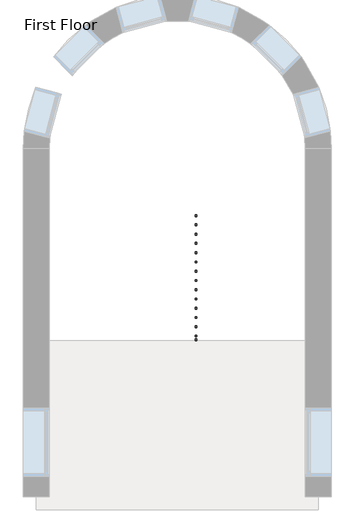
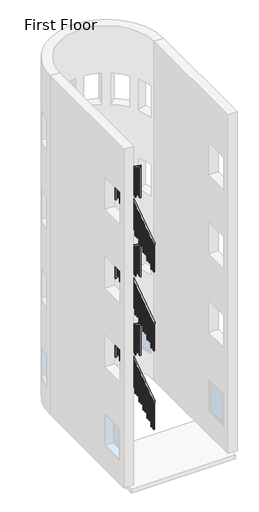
# One storey, part 3 of 4: 1 railing.
"""IFC4 building model written with IfcOpenShell, lengths in millimetres."""

from ifc_helpers import new_model, si_unit, frame, origin, place, context, project, spatial, polyline, outline, extrude, faceted_brep, element, save

model = new_model("IFC4")

# Units and contexts
model_context = context("Model", 3, world=origin())
ifc_project = project(units=[si_unit("LENGTHUNIT", "METRE", prefix="MILLI")], contexts=[model_context])

# Site, building, storey
site = spatial("IfcSite", under=ifc_project)
building = spatial("IfcBuilding", under=site)
storey = spatial("IfcBuildingStorey", under=building, Name="First Floor", Elevation=0.0)

# Railing
placement = place(None, origin())
element("IfcRailing", 1, ObjectType="1100mm", at=placement, inside=storey, context=model_context, shape_type="SolidModel", body=[
    faceted_brep([(2717.4924567, 1521.2556601, 7364.0537364), (2717.4924567, 1521.2556601, 7303.5198543), (2767.4924567, 1521.2556601, 7303.5198543), (2767.4924567, 1521.2556601, 7364.0537364), (2717.4924567, 3681.6556601, 8838.4224349), (2717.4924567, 3731.6556601, 8812.0111389), (2767.4924567, 3731.6556601, 8812.0111389), (2767.4924567, 3681.6556601, 8838.4224349), (2717.4924567, 3681.6556601, 8889.3333333), (2717.4924567, 3731.6556601, 8839.3333333), (2767.4924567, 3731.6556601, 8839.3333333), (2767.4924567, 3681.6556601, 8889.3333333), (2717.4924567, 3756.6556601, 8889.3333333), (2717.4924567, 3756.6556601, 8839.3333333), (2767.4924567, 3806.6556601, 8839.3333333), (2767.4924567, 3806.6556601, 8889.3333333), (2642.4924567, 3756.6556601, 8889.3333333), (2642.4924567, 3756.6556601, 8839.3333333), (2642.4924567, 3806.6556601, 8839.3333333), (2642.4924567, 3806.6556601, 8889.3333333), (2335.6924567, 3756.6556601, 8889.3333333), (2285.6924567, 3756.6556601, 8839.3333333), (2285.6924567, 3806.6556601, 8839.3333333), (2335.6924567, 3806.6556601, 8889.3333333), (2335.6924567, 3756.6556601, 9109.1957333), (2285.6924567, 3756.6556601, 9059.1957333), (2285.6924567, 3806.6556601, 9059.1957333), (2335.6924567, 3806.6556601, 9109.1957333), (2260.6924567, 3756.6556601, 9109.1957333), (2260.6924567, 3756.6556601, 9059.1957333), (2210.6924567, 3806.6556601, 9059.1957333), (2210.6924567, 3806.6556601, 9109.1957333), (2260.6924567, 3681.6556601, 9109.1957333), (2260.6924567, 3666.3161053, 9059.1957333), (2210.6924567, 3666.3161053, 9059.1957333), (2210.6924567, 3681.6556601, 9109.1957333), (2260.6924567, 1521.2556601, 10572.5066667), (2210.6924567, 1521.2556601, 10572.5066667), (2210.6924567, 1521.2556601, 10512.1166749), (2260.6924567, 1521.2556601, 10512.1166749)], [[[0, 1, 2, 3]], [[1, 0, 4, 5]], [[2, 1, 5, 6]], [[3, 2, 6, 7]], [[0, 3, 7, 4]], [[5, 4, 8, 9]], [[6, 5, 9, 10]], [[7, 6, 10, 11]], [[4, 7, 11, 8]], [[9, 8, 12, 13]], [[10, 9, 13, 14]], [[11, 10, 14, 15]], [[8, 11, 15, 12]], [[13, 12, 16, 17]], [[14, 13, 17, 18]], [[15, 14, 18, 19]], [[12, 15, 19, 16]], [[17, 16, 20, 21]], [[18, 17, 21, 22]], [[19, 18, 22, 23]], [[16, 19, 23, 20]], [[21, 20, 24, 25]], [[22, 21, 25, 26]], [[23, 22, 26, 27]], [[20, 23, 27, 24]], [[25, 24, 28, 29]], [[26, 25, 29, 30]], [[27, 26, 30, 31]], [[24, 27, 31, 28]], [[29, 28, 32, 33]], [[30, 29, 33, 34]], [[31, 30, 34, 35]], [[28, 31, 35, 32]], [[36, 37, 38, 39]], [[33, 32, 36, 39]], [[34, 33, 39, 38]], [[35, 34, 38, 37]], [[32, 35, 37, 36]]]),
    faceted_brep([(2717.4924567, 1521.2556601, 4316.0537364), (2717.4924567, 1521.2556601, 4255.5198543), (2767.4924567, 1521.2556601, 4255.5198543), (2767.4924567, 1521.2556601, 4316.0537364), (2717.4924567, 3681.6556601, 5790.4224349), (2717.4924567, 3731.6556601, 5764.0111389), (2767.4924567, 3731.6556601, 5764.0111389), (2767.4924567, 3681.6556601, 5790.4224349), (2717.4924567, 3681.6556601, 5841.3333333), (2717.4924567, 3731.6556601, 5791.3333333), (2767.4924567, 3731.6556601, 5791.3333333), (2767.4924567, 3681.6556601, 5841.3333333), (2717.4924567, 3756.6556601, 5841.3333333), (2717.4924567, 3756.6556601, 5791.3333333), (2767.4924567, 3806.6556601, 5791.3333333), (2767.4924567, 3806.6556601, 5841.3333333), (2642.4924567, 3756.6556601, 5841.3333333), (2642.4924567, 3756.6556601, 5791.3333333), (2642.4924567, 3806.6556601, 5791.3333333), (2642.4924567, 3806.6556601, 5841.3333333), (2335.6924567, 3756.6556601, 5841.3333333), (2285.6924567, 3756.6556601, 5791.3333333), (2285.6924567, 3806.6556601, 5791.3333333), (2335.6924567, 3806.6556601, 5841.3333333), (2335.6924567, 3756.6556601, 6061.1957333), (2285.6924567, 3756.6556601, 6011.1957333), (2285.6924567, 3806.6556601, 6011.1957333), (2335.6924567, 3806.6556601, 6061.1957333), (2260.6924567, 3756.6556601, 6061.1957333), (2260.6924567, 3756.6556601, 6011.1957333), (2210.6924567, 3806.6556601, 6011.1957333), (2210.6924567, 3806.6556601, 6061.1957333), (2260.6924567, 3681.6556601, 6061.1957333), (2260.6924567, 3666.3161053, 6011.1957333), (2210.6924567, 3666.3161053, 6011.1957333), (2210.6924567, 3681.6556601, 6061.1957333), (2260.6924567, 1521.2556601, 7524.5066667), (2210.6924567, 1521.2556601, 7524.5066667), (2210.6924567, 1521.2556601, 7464.1166749), (2260.6924567, 1521.2556601, 7464.1166749)], [[[0, 1, 2, 3]], [[1, 0, 4, 5]], [[2, 1, 5, 6]], [[3, 2, 6, 7]], [[0, 3, 7, 4]], [[5, 4, 8, 9]], [[6, 5, 9, 10]], [[7, 6, 10, 11]], [[4, 7, 11, 8]], [[9, 8, 12, 13]], [[10, 9, 13, 14]], [[11, 10, 14, 15]], [[8, 11, 15, 12]], [[13, 12, 16, 17]], [[14, 13, 17, 18]], [[15, 14, 18, 19]], [[12, 15, 19, 16]], [[17, 16, 20, 21]], [[18, 17, 21, 22]], [[19, 18, 22, 23]], [[16, 19, 23, 20]], [[21, 20, 24, 25]], [[22, 21, 25, 26]], [[23, 22, 26, 27]], [[20, 23, 27, 24]], [[25, 24, 28, 29]], [[26, 25, 29, 30]], [[27, 26, 30, 31]], [[24, 27, 31, 28]], [[29, 28, 32, 33]], [[30, 29, 33, 34]], [[31, 30, 34, 35]], [[28, 31, 35, 32]], [[36, 37, 38, 39]], [[33, 32, 36, 39]], [[34, 33, 39, 38]], [[35, 34, 38, 37]], [[32, 35, 37, 36]]]),
    faceted_brep([(2717.4924567, 1521.2556601, 1268.0537364), (2717.4924567, 1521.2556601, 1207.5198543), (2767.4924567, 1521.2556601, 1207.5198543), (2767.4924567, 1521.2556601, 1268.0537364), (2717.4924567, 3681.6556601, 2742.4224349), (2717.4924567, 3731.6556601, 2716.0111389), (2767.4924567, 3731.6556601, 2716.0111389), (2767.4924567, 3681.6556601, 2742.4224349), (2717.4924567, 3681.6556601, 2793.3333333), (2717.4924567, 3731.6556601, 2743.3333333), (2767.4924567, 3731.6556601, 2743.3333333), (2767.4924567, 3681.6556601, 2793.3333333), (2717.4924567, 3756.6556601, 2793.3333333), (2717.4924567, 3756.6556601, 2743.3333333), (2767.4924567, 3806.6556601, 2743.3333333), (2767.4924567, 3806.6556601, 2793.3333333), (2642.4924567, 3756.6556601, 2793.3333333), (2642.4924567, 3756.6556601, 2743.3333333), (2642.4924567, 3806.6556601, 2743.3333333), (2642.4924567, 3806.6556601, 2793.3333333), (2335.6924567, 3756.6556601, 2793.3333333), (2285.6924567, 3756.6556601, 2743.3333333), (2285.6924567, 3806.6556601, 2743.3333333), (2335.6924567, 3806.6556601, 2793.3333333), (2335.6924567, 3756.6556601, 3013.1957333), (2285.6924567, 3756.6556601, 2963.1957333), (2285.6924567, 3806.6556601, 2963.1957333), (2335.6924567, 3806.6556601, 3013.1957333), (2260.6924567, 3756.6556601, 3013.1957333), (2260.6924567, 3756.6556601, 2963.1957333), (2210.6924567, 3806.6556601, 2963.1957333), (2210.6924567, 3806.6556601, 3013.1957333), (2260.6924567, 3681.6556601, 3013.1957333), (2260.6924567, 3666.3161053, 2963.1957333), (2210.6924567, 3666.3161053, 2963.1957333), (2210.6924567, 3681.6556601, 3013.1957333), (2260.6924567, 1521.2556601, 4476.5066667), (2210.6924567, 1521.2556601, 4476.5066667), (2210.6924567, 1521.2556601, 4416.1166749), (2260.6924567, 1521.2556601, 4416.1166749)], [[[0, 1, 2, 3]], [[1, 0, 4, 5]], [[2, 1, 5, 6]], [[3, 2, 6, 7]], [[0, 3, 7, 4]], [[5, 4, 8, 9]], [[6, 5, 9, 10]], [[7, 6, 10, 11]], [[4, 7, 11, 8]], [[9, 8, 12, 13]], [[10, 9, 13, 14]], [[11, 10, 14, 15]], [[8, 11, 15, 12]], [[13, 12, 16, 17]], [[14, 13, 17, 18]], [[15, 14, 18, 19]], [[12, 15, 19, 16]], [[17, 16, 20, 21]], [[18, 17, 21, 22]], [[19, 18, 22, 23]], [[16, 19, 23, 20]], [[21, 20, 24, 25]], [[22, 21, 25, 26]], [[23, 22, 26, 27]], [[20, 23, 27, 24]], [[25, 24, 28, 29]], [[26, 25, 29, 30]], [[27, 26, 30, 31]], [[24, 27, 31, 28]], [[29, 28, 32, 33]], [[30, 29, 33, 34]], [[31, 30, 34, 35]], [[28, 31, 35, 32]], [[36, 37, 38, 39]], [[33, 32, 36, 39]], [[34, 33, 39, 38]], [[35, 34, 38, 37]], [[32, 35, 37, 36]]]),
    extrude(outline(polyline([(1606.6556601, 9313.3333333), (1581.6556601, 9313.3333333), (1581.6556601, 10471.2057415), (1606.6556601, 10454.2724082), (1606.6556601, 9313.3333333)])), frame((2223.1924567, 0.0, 0.0), z_axis=(1.0, 0.0, 0.0), x_axis=(0.0, 1.0, 0.0)), (0.0, 0.0, 1.0), 25.0),
    extrude(outline(polyline([(1731.6556601, 9313.3333333), (1706.6556601, 9313.3333333), (1706.6556601, 10386.5390749), (1731.6556601, 10369.6057415), (1731.6556601, 9313.3333333)])), frame((2223.1924567, 0.0, 0.0), z_axis=(1.0, 0.0, 0.0), x_axis=(0.0, 1.0, 0.0)), (0.0, 0.0, 1.0), 25.0),
    extrude(outline(polyline([(1856.6556601, 9144.0), (1831.6556601, 9144.0), (1831.6556601, 10301.8724082), (1856.6556601, 10284.9390749), (1856.6556601, 9144.0)])), frame((2223.1924567, 0.0, 0.0), z_axis=(1.0, 0.0, 0.0), x_axis=(0.0, 1.0, 0.0)), (0.0, 0.0, 1.0), 25.0),
    extrude(outline(polyline([(1981.6556601, 9144.0), (1956.6556601, 9144.0), (1956.6556601, 10217.2057415), (1981.6556601, 10200.2724082), (1981.6556601, 9144.0)])), frame((2223.1924567, 0.0, 0.0), z_axis=(1.0, 0.0, 0.0), x_axis=(0.0, 1.0, 0.0)), (0.0, 0.0, 1.0), 25.0),
    extrude(outline(polyline([(2106.6556601, 8974.6666667), (2081.6556601, 8974.6666667), (2081.6556601, 10132.5390749), (2106.6556601, 10115.6057415), (2106.6556601, 8974.6666667)])), frame((2223.1924567, 0.0, 0.0), z_axis=(1.0, 0.0, 0.0), x_axis=(0.0, 1.0, 0.0)), (0.0, 0.0, 1.0), 25.0),
    extrude(outline(polyline([(2231.6556601, 8974.6666667), (2206.6556601, 8974.6666667), (2206.6556601, 10047.8724082), (2231.6556601, 10030.9390749), (2231.6556601, 8974.6666667)])), frame((2223.1924567, 0.0, 0.0), z_axis=(1.0, 0.0, 0.0), x_axis=(0.0, 1.0, 0.0)), (0.0, 0.0, 1.0), 25.0),
    extrude(outline(polyline([(2356.6556601, 8805.3333333), (2331.6556601, 8805.3333333), (2331.6556601, 9963.2057415), (2356.6556601, 9946.2724082), (2356.6556601, 8805.3333333)])), frame((2223.1924567, 0.0, 0.0), z_axis=(1.0, 0.0, 0.0), x_axis=(0.0, 1.0, 0.0)), (0.0, 0.0, 1.0), 25.0),
    extrude(outline(polyline([(2481.6556601, 8805.3333333), (2456.6556601, 8805.3333333), (2456.6556601, 9878.5390749), (2481.6556601, 9861.6057415), (2481.6556601, 8805.3333333)])), frame((2223.1924567, 0.0, 0.0), z_axis=(1.0, 0.0, 0.0), x_axis=(0.0, 1.0, 0.0)), (0.0, 0.0, 1.0), 25.0),
    extrude(outline(polyline([(2606.6556601, 8636.0), (2581.6556601, 8636.0), (2581.6556601, 9793.8724082), (2606.6556601, 9776.9390749), (2606.6556601, 8636.0)])), frame((2223.1924567, 0.0, 0.0), z_axis=(1.0, 0.0, 0.0), x_axis=(0.0, 1.0, 0.0)), (0.0, 0.0, 1.0), 25.0),
    extrude(outline(polyline([(2731.6556601, 8636.0), (2706.6556601, 8636.0), (2706.6556601, 9709.2057415), (2731.6556601, 9692.2724082), (2731.6556601, 8636.0)])), frame((2223.1924567, 0.0, 0.0), z_axis=(1.0, 0.0, 0.0), x_axis=(0.0, 1.0, 0.0)), (0.0, 0.0, 1.0), 25.0),
    extrude(outline(polyline([(2856.6556601, 8466.6666667), (2831.6556601, 8466.6666667), (2831.6556601, 9624.5390749), (2856.6556601, 9607.6057415), (2856.6556601, 8466.6666667)])), frame((2223.1924567, 0.0, 0.0), z_axis=(1.0, 0.0, 0.0), x_axis=(0.0, 1.0, 0.0)), (0.0, 0.0, 1.0), 25.0),
    extrude(outline(polyline([(2981.6556601, 8466.6666667), (2956.6556601, 8466.6666667), (2956.6556601, 9539.8724082), (2981.6556601, 9522.9390749), (2981.6556601, 8466.6666667)])), frame((2223.1924567, 0.0, 0.0), z_axis=(1.0, 0.0, 0.0), x_axis=(0.0, 1.0, 0.0)), (0.0, 0.0, 1.0), 25.0),
    extrude(outline(polyline([(3106.6556601, 8297.3333333), (3081.6556601, 8297.3333333), (3081.6556601, 9455.2057415), (3106.6556601, 9438.2724082), (3106.6556601, 8297.3333333)])), frame((2223.1924567, 0.0, 0.0), z_axis=(1.0, 0.0, 0.0), x_axis=(0.0, 1.0, 0.0)), (0.0, 0.0, 1.0), 25.0),
    extrude(outline(polyline([(3231.6556601, 8297.3333333), (3206.6556601, 8297.3333333), (3206.6556601, 9370.5390749), (3231.6556601, 9353.6057415), (3231.6556601, 8297.3333333)])), frame((2223.1924567, 0.0, 0.0), z_axis=(1.0, 0.0, 0.0), x_axis=(0.0, 1.0, 0.0)), (0.0, 0.0, 1.0), 25.0),
    extrude(outline(polyline([(3356.6556601, 8128.0), (3331.6556601, 8128.0), (3331.6556601, 9285.8724082), (3356.6556601, 9268.9390749), (3356.6556601, 8128.0)])), frame((2223.1924567, 0.0, 0.0), z_axis=(1.0, 0.0, 0.0), x_axis=(0.0, 1.0, 0.0)), (0.0, 0.0, 1.0), 25.0),
    extrude(outline(polyline([(3481.6556601, 8128.0), (3456.6556601, 8128.0), (3456.6556601, 9201.2057415), (3481.6556601, 9184.2724082), (3481.6556601, 8128.0)])), frame((2223.1924567, 0.0, 0.0), z_axis=(1.0, 0.0, 0.0), x_axis=(0.0, 1.0, 0.0)), (0.0, 0.0, 1.0), 25.0),
    extrude(outline(polyline([(3606.6556601, 7958.6666667), (3581.6556601, 7958.6666667), (3581.6556601, 9116.5390749), (3606.6556601, 9099.6057415), (3606.6556601, 7958.6666667)])), frame((2223.1924567, 0.0, 0.0), z_axis=(1.0, 0.0, 0.0), x_axis=(0.0, 1.0, 0.0)), (0.0, 0.0, 1.0), 25.0),
    extrude(outline(polyline([(2248.1924567, 3731.6556601), (2248.1924567, 3706.6556601), (2223.1924567, 3706.6556601), (2223.1924567, 3731.6556601), (2248.1924567, 3731.6556601)])), frame((0.0, 0.0, 7958.6666667), z_axis=(0.0, 0.0, 1.0), x_axis=(1.0, 0.0, 0.0)), (0.0, 0.0, 1.0), 1100.5290667),
    extrude(outline(polyline([(2317.4924567, 3769.1556601), (2292.4924567, 3769.1556601), (2292.4924567, 3794.1556601), (2317.4924567, 3794.1556601), (2317.4924567, 3769.1556601)])), frame((0.0, 0.0, 7789.3333333), z_axis=(0.0, 0.0, 1.0), x_axis=(1.0, 0.0, 0.0)), (0.0, 0.0, 1.0), 1050.0),
    extrude(outline(polyline([(2442.4924567, 3769.1556601), (2417.4924567, 3769.1556601), (2417.4924567, 3794.1556601), (2442.4924567, 3794.1556601), (2442.4924567, 3769.1556601)])), frame((0.0, 0.0, 7789.3333333), z_axis=(0.0, 0.0, 1.0), x_axis=(1.0, 0.0, 0.0)), (0.0, 0.0, 1.0), 1050.0),
    extrude(outline(polyline([(2567.4924567, 3769.1556601), (2542.4924567, 3769.1556601), (2542.4924567, 3794.1556601), (2567.4924567, 3794.1556601), (2567.4924567, 3769.1556601)])), frame((0.0, 0.0, 7789.3333333), z_axis=(0.0, 0.0, 1.0), x_axis=(1.0, 0.0, 0.0)), (0.0, 0.0, 1.0), 1050.0),
    extrude(outline(polyline([(2692.4924567, 3769.1556601), (2667.4924567, 3769.1556601), (2667.4924567, 3794.1556601), (2692.4924567, 3794.1556601), (2692.4924567, 3769.1556601)])), frame((0.0, 0.0, 7789.3333333), z_axis=(0.0, 0.0, 1.0), x_axis=(1.0, 0.0, 0.0)), (0.0, 0.0, 1.0), 1050.0),
    extrude(outline(polyline([(3696.2556601, 8787.852348), (3721.2556601, 8804.913641), (3721.2556601, 7620.0), (3696.2556601, 7620.0), (3696.2556601, 8787.852348)])), frame((2729.9924567, 0.0, 0.0), z_axis=(1.0, 0.0, 0.0), x_axis=(0.0, 1.0, 0.0)), (0.0, 0.0, 1.0), 25.0),
    extrude(outline(polyline([(3571.2556601, 8702.5458828), (3596.2556601, 8719.6071759), (3596.2556601, 7620.0), (3571.2556601, 7620.0), (3571.2556601, 8702.5458828)])), frame((2729.9924567, 0.0, 0.0), z_axis=(1.0, 0.0, 0.0), x_axis=(0.0, 1.0, 0.0)), (0.0, 0.0, 1.0), 25.0),
    extrude(outline(polyline([(3446.2556601, 8617.2394177), (3471.2556601, 8634.3007107), (3471.2556601, 7450.6666667), (3446.2556601, 7450.6666667), (3446.2556601, 8617.2394177)])), frame((2729.9924567, 0.0, 0.0), z_axis=(1.0, 0.0, 0.0), x_axis=(0.0, 1.0, 0.0)), (0.0, 0.0, 1.0), 25.0),
    extrude(outline(polyline([(3321.2556601, 8531.9329525), (3346.2556601, 8548.9942455), (3346.2556601, 7450.6666667), (3321.2556601, 7450.6666667), (3321.2556601, 8531.9329525)])), frame((2729.9924567, 0.0, 0.0), z_axis=(1.0, 0.0, 0.0), x_axis=(0.0, 1.0, 0.0)), (0.0, 0.0, 1.0), 25.0),
    extrude(outline(polyline([(3196.2556601, 8446.6264874), (3221.2556601, 8463.6877804), (3221.2556601, 7281.3333333), (3196.2556601, 7281.3333333), (3196.2556601, 8446.6264874)])), frame((2729.9924567, 0.0, 0.0), z_axis=(1.0, 0.0, 0.0), x_axis=(0.0, 1.0, 0.0)), (0.0, 0.0, 1.0), 25.0),
    extrude(outline(polyline([(3071.2556601, 8361.3200222), (3096.2556601, 8378.3813152), (3096.2556601, 7281.3333333), (3071.2556601, 7281.3333333), (3071.2556601, 8361.3200222)])), frame((2729.9924567, 0.0, 0.0), z_axis=(1.0, 0.0, 0.0), x_axis=(0.0, 1.0, 0.0)), (0.0, 0.0, 1.0), 25.0),
    extrude(outline(polyline([(2946.2556601, 8276.013557), (2971.2556601, 8293.0748501), (2971.2556601, 7112.0), (2946.2556601, 7112.0), (2946.2556601, 8276.013557)])), frame((2729.9924567, 0.0, 0.0), z_axis=(1.0, 0.0, 0.0), x_axis=(0.0, 1.0, 0.0)), (0.0, 0.0, 1.0), 25.0),
    extrude(outline(polyline([(2821.2556601, 8190.7070919), (2846.2556601, 8207.7683849), (2846.2556601, 7112.0), (2821.2556601, 7112.0), (2821.2556601, 8190.7070919)])), frame((2729.9924567, 0.0, 0.0), z_axis=(1.0, 0.0, 0.0), x_axis=(0.0, 1.0, 0.0)), (0.0, 0.0, 1.0), 25.0),
    extrude(outline(polyline([(2696.2556601, 8105.4006267), (2721.2556601, 8122.4619198), (2721.2556601, 6942.6666667), (2696.2556601, 6942.6666667), (2696.2556601, 8105.4006267)])), frame((2729.9924567, 0.0, 0.0), z_axis=(1.0, 0.0, 0.0), x_axis=(0.0, 1.0, 0.0)), (0.0, 0.0, 1.0), 25.0),
    extrude(outline(polyline([(2571.2556601, 8020.0941616), (2596.2556601, 8037.1554546), (2596.2556601, 6942.6666667), (2571.2556601, 6942.6666667), (2571.2556601, 8020.0941616)])), frame((2729.9924567, 0.0, 0.0), z_axis=(1.0, 0.0, 0.0), x_axis=(0.0, 1.0, 0.0)), (0.0, 0.0, 1.0), 25.0),
    extrude(outline(polyline([(2446.2556601, 7934.7876964), (2471.2556601, 7951.8489895), (2471.2556601, 6773.3333333), (2446.2556601, 6773.3333333), (2446.2556601, 7934.7876964)])), frame((2729.9924567, 0.0, 0.0), z_axis=(1.0, 0.0, 0.0), x_axis=(0.0, 1.0, 0.0)), (0.0, 0.0, 1.0), 25.0),
    extrude(outline(polyline([(2321.2556601, 7849.4812313), (2346.2556601, 7866.5425243), (2346.2556601, 6773.3333333), (2321.2556601, 6773.3333333), (2321.2556601, 7849.4812313)])), frame((2729.9924567, 0.0, 0.0), z_axis=(1.0, 0.0, 0.0), x_axis=(0.0, 1.0, 0.0)), (0.0, 0.0, 1.0), 25.0),
    extrude(outline(polyline([(2196.2556601, 7764.1747661), (2221.2556601, 7781.2360591), (2221.2556601, 6604.0), (2196.2556601, 6604.0), (2196.2556601, 7764.1747661)])), frame((2729.9924567, 0.0, 0.0), z_axis=(1.0, 0.0, 0.0), x_axis=(0.0, 1.0, 0.0)), (0.0, 0.0, 1.0), 25.0),
    extrude(outline(polyline([(2071.2556601, 7678.868301), (2096.2556601, 7695.929594), (2096.2556601, 6604.0), (2071.2556601, 6604.0), (2071.2556601, 7678.868301)])), frame((2729.9924567, 0.0, 0.0), z_axis=(1.0, 0.0, 0.0), x_axis=(0.0, 1.0, 0.0)), (0.0, 0.0, 1.0), 25.0),
    extrude(outline(polyline([(1946.2556601, 7593.5618358), (1971.2556601, 7610.6231288), (1971.2556601, 6434.6666667), (1946.2556601, 6434.6666667), (1946.2556601, 7593.5618358)])), frame((2729.9924567, 0.0, 0.0), z_axis=(1.0, 0.0, 0.0), x_axis=(0.0, 1.0, 0.0)), (0.0, 0.0, 1.0), 25.0),
    extrude(outline(polyline([(1821.2556601, 7508.2553706), (1846.2556601, 7525.3166637), (1846.2556601, 6434.6666667), (1821.2556601, 6434.6666667), (1821.2556601, 7508.2553706)])), frame((2729.9924567, 0.0, 0.0), z_axis=(1.0, 0.0, 0.0), x_axis=(0.0, 1.0, 0.0)), (0.0, 0.0, 1.0), 25.0),
    extrude(outline(polyline([(1696.2556601, 7422.9489055), (1721.2556601, 7440.0101985), (1721.2556601, 6265.3333333), (1696.2556601, 6265.3333333), (1696.2556601, 7422.9489055)])), frame((2729.9924567, 0.0, 0.0), z_axis=(1.0, 0.0, 0.0), x_axis=(0.0, 1.0, 0.0)), (0.0, 0.0, 1.0), 25.0),
    extrude(outline(polyline([(1571.2556601, 7337.6424403), (1596.2556601, 7354.7037334), (1596.2556601, 6265.3333333), (1571.2556601, 6265.3333333), (1571.2556601, 7337.6424403)])), frame((2729.9924567, 0.0, 0.0), z_axis=(1.0, 0.0, 0.0), x_axis=(0.0, 1.0, 0.0)), (0.0, 0.0, 1.0), 25.0),
    extrude(outline(polyline([(2248.1924567, 3794.1556601), (2248.1924567, 3769.1556601), (2223.1924567, 3769.1556601), (2223.1924567, 3794.1556601), (2248.1924567, 3794.1556601)])), frame((0.0, 0.0, 7789.3333333), z_axis=(0.0, 0.0, 1.0), x_axis=(1.0, 0.0, 0.0)), (0.0, 0.0, 1.0), 1269.8624),
    extrude(outline(polyline([(2729.9924567, 3769.1556601), (2729.9924567, 3794.1556601), (2754.9924567, 3794.1556601), (2754.9924567, 3769.1556601), (2729.9924567, 3769.1556601)])), frame((0.0, 0.0, 7789.3333333), z_axis=(0.0, 0.0, 1.0), x_axis=(1.0, 0.0, 0.0)), (0.0, 0.0, 1.0), 1050.0),
    extrude(outline(polyline([(2729.9924567, 3743.7556601), (2729.9924567, 3768.7556601), (2754.9924567, 3768.7556601), (2754.9924567, 3743.7556601), (2729.9924567, 3743.7556601)])), frame((0.0, 0.0, 7789.3333333), z_axis=(0.0, 0.0, 1.0), x_axis=(1.0, 0.0, 0.0)), (0.0, 0.0, 1.0), 1050.0),
    extrude(outline(polyline([(1546.2556601, 9313.3333333), (1521.2556601, 9313.3333333), (1521.2556601, 10512.1166749), (1546.2556601, 10495.1833415), (1546.2556601, 9313.3333333)])), frame((2223.1924567, 0.0, 0.0), z_axis=(1.0, 0.0, 0.0), x_axis=(0.0, 1.0, 0.0)), (0.0, 0.0, 1.0), 25.0),
    extrude(outline(polyline([(1521.2556601, 7303.5198543), (1546.2556601, 7320.5811473), (1546.2556601, 6265.3333333), (1521.2556601, 6265.3333333), (1521.2556601, 7303.5198543)])), frame((2729.9924567, 0.0, 0.0), z_axis=(1.0, 0.0, 0.0), x_axis=(0.0, 1.0, 0.0)), (0.0, 0.0, 1.0), 25.0),
    extrude(outline(polyline([(1606.6556601, 6265.3333333), (1581.6556601, 6265.3333333), (1581.6556601, 7423.2057415), (1606.6556601, 7406.2724082), (1606.6556601, 6265.3333333)])), frame((2223.1924567, 0.0, 0.0), z_axis=(1.0, 0.0, 0.0), x_axis=(0.0, 1.0, 0.0)), (0.0, 0.0, 1.0), 25.0),
    extrude(outline(polyline([(1731.6556601, 6265.3333333), (1706.6556601, 6265.3333333), (1706.6556601, 7338.5390749), (1731.6556601, 7321.6057415), (1731.6556601, 6265.3333333)])), frame((2223.1924567, 0.0, 0.0), z_axis=(1.0, 0.0, 0.0), x_axis=(0.0, 1.0, 0.0)), (0.0, 0.0, 1.0), 25.0),
    extrude(outline(polyline([(1856.6556601, 6096.0), (1831.6556601, 6096.0), (1831.6556601, 7253.8724082), (1856.6556601, 7236.9390749), (1856.6556601, 6096.0)])), frame((2223.1924567, 0.0, 0.0), z_axis=(1.0, 0.0, 0.0), x_axis=(0.0, 1.0, 0.0)), (0.0, 0.0, 1.0), 25.0),
    extrude(outline(polyline([(1981.6556601, 6096.0), (1956.6556601, 6096.0), (1956.6556601, 7169.2057415), (1981.6556601, 7152.2724082), (1981.6556601, 6096.0)])), frame((2223.1924567, 0.0, 0.0), z_axis=(1.0, 0.0, 0.0), x_axis=(0.0, 1.0, 0.0)), (0.0, 0.0, 1.0), 25.0),
    extrude(outline(polyline([(2106.6556601, 5926.6666667), (2081.6556601, 5926.6666667), (2081.6556601, 7084.5390749), (2106.6556601, 7067.6057415), (2106.6556601, 5926.6666667)])), frame((2223.1924567, 0.0, 0.0), z_axis=(1.0, 0.0, 0.0), x_axis=(0.0, 1.0, 0.0)), (0.0, 0.0, 1.0), 25.0),
    extrude(outline(polyline([(2231.6556601, 5926.6666667), (2206.6556601, 5926.6666667), (2206.6556601, 6999.8724082), (2231.6556601, 6982.9390749), (2231.6556601, 5926.6666667)])), frame((2223.1924567, 0.0, 0.0), z_axis=(1.0, 0.0, 0.0), x_axis=(0.0, 1.0, 0.0)), (0.0, 0.0, 1.0), 25.0),
    extrude(outline(polyline([(2356.6556601, 5757.3333333), (2331.6556601, 5757.3333333), (2331.6556601, 6915.2057415), (2356.6556601, 6898.2724082), (2356.6556601, 5757.3333333)])), frame((2223.1924567, 0.0, 0.0), z_axis=(1.0, 0.0, 0.0), x_axis=(0.0, 1.0, 0.0)), (0.0, 0.0, 1.0), 25.0),
    extrude(outline(polyline([(2481.6556601, 5757.3333333), (2456.6556601, 5757.3333333), (2456.6556601, 6830.5390749), (2481.6556601, 6813.6057415), (2481.6556601, 5757.3333333)])), frame((2223.1924567, 0.0, 0.0), z_axis=(1.0, 0.0, 0.0), x_axis=(0.0, 1.0, 0.0)), (0.0, 0.0, 1.0), 25.0),
    extrude(outline(polyline([(2606.6556601, 5588.0), (2581.6556601, 5588.0), (2581.6556601, 6745.8724082), (2606.6556601, 6728.9390749), (2606.6556601, 5588.0)])), frame((2223.1924567, 0.0, 0.0), z_axis=(1.0, 0.0, 0.0), x_axis=(0.0, 1.0, 0.0)), (0.0, 0.0, 1.0), 25.0),
    extrude(outline(polyline([(2731.6556601, 5588.0), (2706.6556601, 5588.0), (2706.6556601, 6661.2057415), (2731.6556601, 6644.2724082), (2731.6556601, 5588.0)])), frame((2223.1924567, 0.0, 0.0), z_axis=(1.0, 0.0, 0.0), x_axis=(0.0, 1.0, 0.0)), (0.0, 0.0, 1.0), 25.0),
    extrude(outline(polyline([(2856.6556601, 5418.6666667), (2831.6556601, 5418.6666667), (2831.6556601, 6576.5390749), (2856.6556601, 6559.6057415), (2856.6556601, 5418.6666667)])), frame((2223.1924567, 0.0, 0.0), z_axis=(1.0, 0.0, 0.0), x_axis=(0.0, 1.0, 0.0)), (0.0, 0.0, 1.0), 25.0),
    extrude(outline(polyline([(2981.6556601, 5418.6666667), (2956.6556601, 5418.6666667), (2956.6556601, 6491.8724082), (2981.6556601, 6474.9390749), (2981.6556601, 5418.6666667)])), frame((2223.1924567, 0.0, 0.0), z_axis=(1.0, 0.0, 0.0), x_axis=(0.0, 1.0, 0.0)), (0.0, 0.0, 1.0), 25.0),
    extrude(outline(polyline([(3106.6556601, 5249.3333333), (3081.6556601, 5249.3333333), (3081.6556601, 6407.2057415), (3106.6556601, 6390.2724082), (3106.6556601, 5249.3333333)])), frame((2223.1924567, 0.0, 0.0), z_axis=(1.0, 0.0, 0.0), x_axis=(0.0, 1.0, 0.0)), (0.0, 0.0, 1.0), 25.0),
    extrude(outline(polyline([(3231.6556601, 5249.3333333), (3206.6556601, 5249.3333333), (3206.6556601, 6322.5390749), (3231.6556601, 6305.6057415), (3231.6556601, 5249.3333333)])), frame((2223.1924567, 0.0, 0.0), z_axis=(1.0, 0.0, 0.0), x_axis=(0.0, 1.0, 0.0)), (0.0, 0.0, 1.0), 25.0),
    extrude(outline(polyline([(3356.6556601, 5080.0), (3331.6556601, 5080.0), (3331.6556601, 6237.8724082), (3356.6556601, 6220.9390749), (3356.6556601, 5080.0)])), frame((2223.1924567, 0.0, 0.0), z_axis=(1.0, 0.0, 0.0), x_axis=(0.0, 1.0, 0.0)), (0.0, 0.0, 1.0), 25.0),
    extrude(outline(polyline([(3481.6556601, 5080.0), (3456.6556601, 5080.0), (3456.6556601, 6153.2057415), (3481.6556601, 6136.2724082), (3481.6556601, 5080.0)])), frame((2223.1924567, 0.0, 0.0), z_axis=(1.0, 0.0, 0.0), x_axis=(0.0, 1.0, 0.0)), (0.0, 0.0, 1.0), 25.0),
    extrude(outline(polyline([(3606.6556601, 4910.6666667), (3581.6556601, 4910.6666667), (3581.6556601, 6068.5390749), (3606.6556601, 6051.6057415), (3606.6556601, 4910.6666667)])), frame((2223.1924567, 0.0, 0.0), z_axis=(1.0, 0.0, 0.0), x_axis=(0.0, 1.0, 0.0)), (0.0, 0.0, 1.0), 25.0),
    extrude(outline(polyline([(2248.1924567, 3731.6556601), (2248.1924567, 3706.6556601), (2223.1924567, 3706.6556601), (2223.1924567, 3731.6556601), (2248.1924567, 3731.6556601)])), frame((0.0, 0.0, 4910.6666667), z_axis=(0.0, 0.0, 1.0), x_axis=(1.0, 0.0, 0.0)), (0.0, 0.0, 1.0), 1100.5290667),
    extrude(outline(polyline([(2317.4924567, 3769.1556601), (2292.4924567, 3769.1556601), (2292.4924567, 3794.1556601), (2317.4924567, 3794.1556601), (2317.4924567, 3769.1556601)])), frame((0.0, 0.0, 4741.3333333), z_axis=(0.0, 0.0, 1.0), x_axis=(1.0, 0.0, 0.0)), (0.0, 0.0, 1.0), 1050.0),
    extrude(outline(polyline([(2442.4924567, 3769.1556601), (2417.4924567, 3769.1556601), (2417.4924567, 3794.1556601), (2442.4924567, 3794.1556601), (2442.4924567, 3769.1556601)])), frame((0.0, 0.0, 4741.3333333), z_axis=(0.0, 0.0, 1.0), x_axis=(1.0, 0.0, 0.0)), (0.0, 0.0, 1.0), 1050.0),
    extrude(outline(polyline([(2567.4924567, 3769.1556601), (2542.4924567, 3769.1556601), (2542.4924567, 3794.1556601), (2567.4924567, 3794.1556601), (2567.4924567, 3769.1556601)])), frame((0.0, 0.0, 4741.3333333), z_axis=(0.0, 0.0, 1.0), x_axis=(1.0, 0.0, 0.0)), (0.0, 0.0, 1.0), 1050.0),
    extrude(outline(polyline([(2692.4924567, 3769.1556601), (2667.4924567, 3769.1556601), (2667.4924567, 3794.1556601), (2692.4924567, 3794.1556601), (2692.4924567, 3769.1556601)])), frame((0.0, 0.0, 4741.3333333), z_axis=(0.0, 0.0, 1.0), x_axis=(1.0, 0.0, 0.0)), (0.0, 0.0, 1.0), 1050.0),
    extrude(outline(polyline([(3696.2556601, 5739.852348), (3721.2556601, 5756.913641), (3721.2556601, 4572.0), (3696.2556601, 4572.0), (3696.2556601, 5739.852348)])), frame((2729.9924567, 0.0, 0.0), z_axis=(1.0, 0.0, 0.0), x_axis=(0.0, 1.0, 0.0)), (0.0, 0.0, 1.0), 25.0),
    extrude(outline(polyline([(3571.2556601, 5654.5458828), (3596.2556601, 5671.6071759), (3596.2556601, 4572.0), (3571.2556601, 4572.0), (3571.2556601, 5654.5458828)])), frame((2729.9924567, 0.0, 0.0), z_axis=(1.0, 0.0, 0.0), x_axis=(0.0, 1.0, 0.0)), (0.0, 0.0, 1.0), 25.0),
    extrude(outline(polyline([(3446.2556601, 5569.2394177), (3471.2556601, 5586.3007107), (3471.2556601, 4402.6666667), (3446.2556601, 4402.6666667), (3446.2556601, 5569.2394177)])), frame((2729.9924567, 0.0, 0.0), z_axis=(1.0, 0.0, 0.0), x_axis=(0.0, 1.0, 0.0)), (0.0, 0.0, 1.0), 25.0),
    extrude(outline(polyline([(3321.2556601, 5483.9329525), (3346.2556601, 5500.9942455), (3346.2556601, 4402.6666667), (3321.2556601, 4402.6666667), (3321.2556601, 5483.9329525)])), frame((2729.9924567, 0.0, 0.0), z_axis=(1.0, 0.0, 0.0), x_axis=(0.0, 1.0, 0.0)), (0.0, 0.0, 1.0), 25.0),
    extrude(outline(polyline([(3196.2556601, 5398.6264874), (3221.2556601, 5415.6877804), (3221.2556601, 4233.3333333), (3196.2556601, 4233.3333333), (3196.2556601, 5398.6264874)])), frame((2729.9924567, 0.0, 0.0), z_axis=(1.0, 0.0, 0.0), x_axis=(0.0, 1.0, 0.0)), (0.0, 0.0, 1.0), 25.0),
    extrude(outline(polyline([(3071.2556601, 5313.3200222), (3096.2556601, 5330.3813152), (3096.2556601, 4233.3333333), (3071.2556601, 4233.3333333), (3071.2556601, 5313.3200222)])), frame((2729.9924567, 0.0, 0.0), z_axis=(1.0, 0.0, 0.0), x_axis=(0.0, 1.0, 0.0)), (0.0, 0.0, 1.0), 25.0),
    extrude(outline(polyline([(2946.2556601, 5228.013557), (2971.2556601, 5245.0748501), (2971.2556601, 4064.0), (2946.2556601, 4064.0), (2946.2556601, 5228.013557)])), frame((2729.9924567, 0.0, 0.0), z_axis=(1.0, 0.0, 0.0), x_axis=(0.0, 1.0, 0.0)), (0.0, 0.0, 1.0), 25.0),
    extrude(outline(polyline([(2821.2556601, 5142.7070919), (2846.2556601, 5159.7683849), (2846.2556601, 4064.0), (2821.2556601, 4064.0), (2821.2556601, 5142.7070919)])), frame((2729.9924567, 0.0, 0.0), z_axis=(1.0, 0.0, 0.0), x_axis=(0.0, 1.0, 0.0)), (0.0, 0.0, 1.0), 25.0),
    extrude(outline(polyline([(2696.2556601, 5057.4006267), (2721.2556601, 5074.4619198), (2721.2556601, 3894.6666667), (2696.2556601, 3894.6666667), (2696.2556601, 5057.4006267)])), frame((2729.9924567, 0.0, 0.0), z_axis=(1.0, 0.0, 0.0), x_axis=(0.0, 1.0, 0.0)), (0.0, 0.0, 1.0), 25.0),
    extrude(outline(polyline([(2571.2556601, 4972.0941616), (2596.2556601, 4989.1554546), (2596.2556601, 3894.6666667), (2571.2556601, 3894.6666667), (2571.2556601, 4972.0941616)])), frame((2729.9924567, 0.0, 0.0), z_axis=(1.0, 0.0, 0.0), x_axis=(0.0, 1.0, 0.0)), (0.0, 0.0, 1.0), 25.0),
    extrude(outline(polyline([(2446.2556601, 4886.7876964), (2471.2556601, 4903.8489895), (2471.2556601, 3725.3333333), (2446.2556601, 3725.3333333), (2446.2556601, 4886.7876964)])), frame((2729.9924567, 0.0, 0.0), z_axis=(1.0, 0.0, 0.0), x_axis=(0.0, 1.0, 0.0)), (0.0, 0.0, 1.0), 25.0),
    extrude(outline(polyline([(2321.2556601, 4801.4812313), (2346.2556601, 4818.5425243), (2346.2556601, 3725.3333333), (2321.2556601, 3725.3333333), (2321.2556601, 4801.4812313)])), frame((2729.9924567, 0.0, 0.0), z_axis=(1.0, 0.0, 0.0), x_axis=(0.0, 1.0, 0.0)), (0.0, 0.0, 1.0), 25.0),
    extrude(outline(polyline([(2196.2556601, 4716.1747661), (2221.2556601, 4733.2360591), (2221.2556601, 3556.0), (2196.2556601, 3556.0), (2196.2556601, 4716.1747661)])), frame((2729.9924567, 0.0, 0.0), z_axis=(1.0, 0.0, 0.0), x_axis=(0.0, 1.0, 0.0)), (0.0, 0.0, 1.0), 25.0),
    extrude(outline(polyline([(2071.2556601, 4630.868301), (2096.2556601, 4647.929594), (2096.2556601, 3556.0), (2071.2556601, 3556.0), (2071.2556601, 4630.868301)])), frame((2729.9924567, 0.0, 0.0), z_axis=(1.0, 0.0, 0.0), x_axis=(0.0, 1.0, 0.0)), (0.0, 0.0, 1.0), 25.0),
    extrude(outline(polyline([(1946.2556601, 4545.5618358), (1971.2556601, 4562.6231288), (1971.2556601, 3386.6666667), (1946.2556601, 3386.6666667), (1946.2556601, 4545.5618358)])), frame((2729.9924567, 0.0, 0.0), z_axis=(1.0, 0.0, 0.0), x_axis=(0.0, 1.0, 0.0)), (0.0, 0.0, 1.0), 25.0),
    extrude(outline(polyline([(1821.2556601, 4460.2553706), (1846.2556601, 4477.3166637), (1846.2556601, 3386.6666667), (1821.2556601, 3386.6666667), (1821.2556601, 4460.2553706)])), frame((2729.9924567, 0.0, 0.0), z_axis=(1.0, 0.0, 0.0), x_axis=(0.0, 1.0, 0.0)), (0.0, 0.0, 1.0), 25.0),
    extrude(outline(polyline([(1696.2556601, 4374.9489055), (1721.2556601, 4392.0101985), (1721.2556601, 3217.3333333), (1696.2556601, 3217.3333333), (1696.2556601, 4374.9489055)])), frame((2729.9924567, 0.0, 0.0), z_axis=(1.0, 0.0, 0.0), x_axis=(0.0, 1.0, 0.0)), (0.0, 0.0, 1.0), 25.0),
    extrude(outline(polyline([(1571.2556601, 4289.6424403), (1596.2556601, 4306.7037334), (1596.2556601, 3217.3333333), (1571.2556601, 3217.3333333), (1571.2556601, 4289.6424403)])), frame((2729.9924567, 0.0, 0.0), z_axis=(1.0, 0.0, 0.0), x_axis=(0.0, 1.0, 0.0)), (0.0, 0.0, 1.0), 25.0),
    extrude(outline(polyline([(2248.1924567, 3794.1556601), (2248.1924567, 3769.1556601), (2223.1924567, 3769.1556601), (2223.1924567, 3794.1556601), (2248.1924567, 3794.1556601)])), frame((0.0, 0.0, 4741.3333333), z_axis=(0.0, 0.0, 1.0), x_axis=(1.0, 0.0, 0.0)), (0.0, 0.0, 1.0), 1269.8624),
    extrude(outline(polyline([(2729.9924567, 3769.1556601), (2729.9924567, 3794.1556601), (2754.9924567, 3794.1556601), (2754.9924567, 3769.1556601), (2729.9924567, 3769.1556601)])), frame((0.0, 0.0, 4741.3333333), z_axis=(0.0, 0.0, 1.0), x_axis=(1.0, 0.0, 0.0)), (0.0, 0.0, 1.0), 1050.0),
    extrude(outline(polyline([(2729.9924567, 3743.7556601), (2729.9924567, 3768.7556601), (2754.9924567, 3768.7556601), (2754.9924567, 3743.7556601), (2729.9924567, 3743.7556601)])), frame((0.0, 0.0, 4741.3333333), z_axis=(0.0, 0.0, 1.0), x_axis=(1.0, 0.0, 0.0)), (0.0, 0.0, 1.0), 1050.0),
    extrude(outline(polyline([(1546.2556601, 6265.3333333), (1521.2556601, 6265.3333333), (1521.2556601, 7464.1166749), (1546.2556601, 7447.1833415), (1546.2556601, 6265.3333333)])), frame((2223.1924567, 0.0, 0.0), z_axis=(1.0, 0.0, 0.0), x_axis=(0.0, 1.0, 0.0)), (0.0, 0.0, 1.0), 25.0),
    extrude(outline(polyline([(1521.2556601, 4255.5198543), (1546.2556601, 4272.5811473), (1546.2556601, 3217.3333333), (1521.2556601, 3217.3333333), (1521.2556601, 4255.5198543)])), frame((2729.9924567, 0.0, 0.0), z_axis=(1.0, 0.0, 0.0), x_axis=(0.0, 1.0, 0.0)), (0.0, 0.0, 1.0), 25.0),
    extrude(outline(polyline([(1606.6556601, 3217.3333333), (1581.6556601, 3217.3333333), (1581.6556601, 4375.2057415), (1606.6556601, 4358.2724082), (1606.6556601, 3217.3333333)])), frame((2223.1924567, 0.0, 0.0), z_axis=(1.0, 0.0, 0.0), x_axis=(0.0, 1.0, 0.0)), (0.0, 0.0, 1.0), 25.0),
    extrude(outline(polyline([(1731.6556601, 3217.3333333), (1706.6556601, 3217.3333333), (1706.6556601, 4290.5390749), (1731.6556601, 4273.6057415), (1731.6556601, 3217.3333333)])), frame((2223.1924567, 0.0, 0.0), z_axis=(1.0, 0.0, 0.0), x_axis=(0.0, 1.0, 0.0)), (0.0, 0.0, 1.0), 25.0),
    extrude(outline(polyline([(1856.6556601, 3048.0), (1831.6556601, 3048.0), (1831.6556601, 4205.8724082), (1856.6556601, 4188.9390749), (1856.6556601, 3048.0)])), frame((2223.1924567, 0.0, 0.0), z_axis=(1.0, 0.0, 0.0), x_axis=(0.0, 1.0, 0.0)), (0.0, 0.0, 1.0), 25.0),
    extrude(outline(polyline([(1981.6556601, 3048.0), (1956.6556601, 3048.0), (1956.6556601, 4121.2057415), (1981.6556601, 4104.2724082), (1981.6556601, 3048.0)])), frame((2223.1924567, 0.0, 0.0), z_axis=(1.0, 0.0, 0.0), x_axis=(0.0, 1.0, 0.0)), (0.0, 0.0, 1.0), 25.0),
    extrude(outline(polyline([(2106.6556601, 2878.6666667), (2081.6556601, 2878.6666667), (2081.6556601, 4036.5390749), (2106.6556601, 4019.6057415), (2106.6556601, 2878.6666667)])), frame((2223.1924567, 0.0, 0.0), z_axis=(1.0, 0.0, 0.0), x_axis=(0.0, 1.0, 0.0)), (0.0, 0.0, 1.0), 25.0),
    extrude(outline(polyline([(2231.6556601, 2878.6666667), (2206.6556601, 2878.6666667), (2206.6556601, 3951.8724082), (2231.6556601, 3934.9390749), (2231.6556601, 2878.6666667)])), frame((2223.1924567, 0.0, 0.0), z_axis=(1.0, 0.0, 0.0), x_axis=(0.0, 1.0, 0.0)), (0.0, 0.0, 1.0), 25.0),
    extrude(outline(polyline([(2356.6556601, 2709.3333333), (2331.6556601, 2709.3333333), (2331.6556601, 3867.2057415), (2356.6556601, 3850.2724082), (2356.6556601, 2709.3333333)])), frame((2223.1924567, 0.0, 0.0), z_axis=(1.0, 0.0, 0.0), x_axis=(0.0, 1.0, 0.0)), (0.0, 0.0, 1.0), 25.0),
    extrude(outline(polyline([(2481.6556601, 2709.3333333), (2456.6556601, 2709.3333333), (2456.6556601, 3782.5390749), (2481.6556601, 3765.6057415), (2481.6556601, 2709.3333333)])), frame((2223.1924567, 0.0, 0.0), z_axis=(1.0, 0.0, 0.0), x_axis=(0.0, 1.0, 0.0)), (0.0, 0.0, 1.0), 25.0),
    extrude(outline(polyline([(2606.6556601, 2540.0), (2581.6556601, 2540.0), (2581.6556601, 3697.8724082), (2606.6556601, 3680.9390749), (2606.6556601, 2540.0)])), frame((2223.1924567, 0.0, 0.0), z_axis=(1.0, 0.0, 0.0), x_axis=(0.0, 1.0, 0.0)), (0.0, 0.0, 1.0), 25.0),
    extrude(outline(polyline([(2731.6556601, 2540.0), (2706.6556601, 2540.0), (2706.6556601, 3613.2057415), (2731.6556601, 3596.2724082), (2731.6556601, 2540.0)])), frame((2223.1924567, 0.0, 0.0), z_axis=(1.0, 0.0, 0.0), x_axis=(0.0, 1.0, 0.0)), (0.0, 0.0, 1.0), 25.0),
    extrude(outline(polyline([(2856.6556601, 2370.6666667), (2831.6556601, 2370.6666667), (2831.6556601, 3528.5390749), (2856.6556601, 3511.6057415), (2856.6556601, 2370.6666667)])), frame((2223.1924567, 0.0, 0.0), z_axis=(1.0, 0.0, 0.0), x_axis=(0.0, 1.0, 0.0)), (0.0, 0.0, 1.0), 25.0),
    extrude(outline(polyline([(2981.6556601, 2370.6666667), (2956.6556601, 2370.6666667), (2956.6556601, 3443.8724082), (2981.6556601, 3426.9390749), (2981.6556601, 2370.6666667)])), frame((2223.1924567, 0.0, 0.0), z_axis=(1.0, 0.0, 0.0), x_axis=(0.0, 1.0, 0.0)), (0.0, 0.0, 1.0), 25.0),
    extrude(outline(polyline([(3106.6556601, 2201.3333333), (3081.6556601, 2201.3333333), (3081.6556601, 3359.2057415), (3106.6556601, 3342.2724082), (3106.6556601, 2201.3333333)])), frame((2223.1924567, 0.0, 0.0), z_axis=(1.0, 0.0, 0.0), x_axis=(0.0, 1.0, 0.0)), (0.0, 0.0, 1.0), 25.0),
    extrude(outline(polyline([(3231.6556601, 2201.3333333), (3206.6556601, 2201.3333333), (3206.6556601, 3274.5390749), (3231.6556601, 3257.6057415), (3231.6556601, 2201.3333333)])), frame((2223.1924567, 0.0, 0.0), z_axis=(1.0, 0.0, 0.0), x_axis=(0.0, 1.0, 0.0)), (0.0, 0.0, 1.0), 25.0),
    extrude(outline(polyline([(3356.6556601, 2032.0), (3331.6556601, 2032.0), (3331.6556601, 3189.8724082), (3356.6556601, 3172.9390749), (3356.6556601, 2032.0)])), frame((2223.1924567, 0.0, 0.0), z_axis=(1.0, 0.0, 0.0), x_axis=(0.0, 1.0, 0.0)), (0.0, 0.0, 1.0), 25.0),
    extrude(outline(polyline([(3481.6556601, 2032.0), (3456.6556601, 2032.0), (3456.6556601, 3105.2057415), (3481.6556601, 3088.2724082), (3481.6556601, 2032.0)])), frame((2223.1924567, 0.0, 0.0), z_axis=(1.0, 0.0, 0.0), x_axis=(0.0, 1.0, 0.0)), (0.0, 0.0, 1.0), 25.0),
    extrude(outline(polyline([(3606.6556601, 1862.6666667), (3581.6556601, 1862.6666667), (3581.6556601, 3020.5390749), (3606.6556601, 3003.6057415), (3606.6556601, 1862.6666667)])), frame((2223.1924567, 0.0, 0.0), z_axis=(1.0, 0.0, 0.0), x_axis=(0.0, 1.0, 0.0)), (0.0, 0.0, 1.0), 25.0),
    extrude(outline(polyline([(2248.1924567, 3731.6556601), (2248.1924567, 3706.6556601), (2223.1924567, 3706.6556601), (2223.1924567, 3731.6556601), (2248.1924567, 3731.6556601)])), frame((0.0, 0.0, 1862.6666667), z_axis=(0.0, 0.0, 1.0), x_axis=(1.0, 0.0, 0.0)), (0.0, 0.0, 1.0), 1100.5290667),
    extrude(outline(polyline([(2317.4924567, 3769.1556601), (2292.4924567, 3769.1556601), (2292.4924567, 3794.1556601), (2317.4924567, 3794.1556601), (2317.4924567, 3769.1556601)])), frame((0.0, 0.0, 1693.3333333), z_axis=(0.0, 0.0, 1.0), x_axis=(1.0, 0.0, 0.0)), (0.0, 0.0, 1.0), 1050.0),
    extrude(outline(polyline([(2442.4924567, 3769.1556601), (2417.4924567, 3769.1556601), (2417.4924567, 3794.1556601), (2442.4924567, 3794.1556601), (2442.4924567, 3769.1556601)])), frame((0.0, 0.0, 1693.3333333), z_axis=(0.0, 0.0, 1.0), x_axis=(1.0, 0.0, 0.0)), (0.0, 0.0, 1.0), 1050.0),
    extrude(outline(polyline([(2567.4924567, 3769.1556601), (2542.4924567, 3769.1556601), (2542.4924567, 3794.1556601), (2567.4924567, 3794.1556601), (2567.4924567, 3769.1556601)])), frame((0.0, 0.0, 1693.3333333), z_axis=(0.0, 0.0, 1.0), x_axis=(1.0, 0.0, 0.0)), (0.0, 0.0, 1.0), 1050.0),
    extrude(outline(polyline([(2692.4924567, 3769.1556601), (2667.4924567, 3769.1556601), (2667.4924567, 3794.1556601), (2692.4924567, 3794.1556601), (2692.4924567, 3769.1556601)])), frame((0.0, 0.0, 1693.3333333), z_axis=(0.0, 0.0, 1.0), x_axis=(1.0, 0.0, 0.0)), (0.0, 0.0, 1.0), 1050.0),
    extrude(outline(polyline([(3696.2556601, 2691.852348), (3721.2556601, 2708.913641), (3721.2556601, 1524.0), (3696.2556601, 1524.0), (3696.2556601, 2691.852348)])), frame((2729.9924567, 0.0, 0.0), z_axis=(1.0, 0.0, 0.0), x_axis=(0.0, 1.0, 0.0)), (0.0, 0.0, 1.0), 25.0),
    extrude(outline(polyline([(3571.2556601, 2606.5458828), (3596.2556601, 2623.6071759), (3596.2556601, 1524.0), (3571.2556601, 1524.0), (3571.2556601, 2606.5458828)])), frame((2729.9924567, 0.0, 0.0), z_axis=(1.0, 0.0, 0.0), x_axis=(0.0, 1.0, 0.0)), (0.0, 0.0, 1.0), 25.0),
    extrude(outline(polyline([(3446.2556601, 2521.2394177), (3471.2556601, 2538.3007107), (3471.2556601, 1354.6666667), (3446.2556601, 1354.6666667), (3446.2556601, 2521.2394177)])), frame((2729.9924567, 0.0, 0.0), z_axis=(1.0, 0.0, 0.0), x_axis=(0.0, 1.0, 0.0)), (0.0, 0.0, 1.0), 25.0),
    extrude(outline(polyline([(3321.2556601, 2435.9329525), (3346.2556601, 2452.9942455), (3346.2556601, 1354.6666667), (3321.2556601, 1354.6666667), (3321.2556601, 2435.9329525)])), frame((2729.9924567, 0.0, 0.0), z_axis=(1.0, 0.0, 0.0), x_axis=(0.0, 1.0, 0.0)), (0.0, 0.0, 1.0), 25.0),
    extrude(outline(polyline([(3196.2556601, 2350.6264874), (3221.2556601, 2367.6877804), (3221.2556601, 1185.3333333), (3196.2556601, 1185.3333333), (3196.2556601, 2350.6264874)])), frame((2729.9924567, 0.0, 0.0), z_axis=(1.0, 0.0, 0.0), x_axis=(0.0, 1.0, 0.0)), (0.0, 0.0, 1.0), 25.0),
    extrude(outline(polyline([(3071.2556601, 2265.3200222), (3096.2556601, 2282.3813152), (3096.2556601, 1185.3333333), (3071.2556601, 1185.3333333), (3071.2556601, 2265.3200222)])), frame((2729.9924567, 0.0, 0.0), z_axis=(1.0, 0.0, 0.0), x_axis=(0.0, 1.0, 0.0)), (0.0, 0.0, 1.0), 25.0),
    extrude(outline(polyline([(2946.2556601, 2180.013557), (2971.2556601, 2197.0748501), (2971.2556601, 1016.0), (2946.2556601, 1016.0), (2946.2556601, 2180.013557)])), frame((2729.9924567, 0.0, 0.0), z_axis=(1.0, 0.0, 0.0), x_axis=(0.0, 1.0, 0.0)), (0.0, 0.0, 1.0), 25.0),
    extrude(outline(polyline([(2821.2556601, 2094.7070919), (2846.2556601, 2111.7683849), (2846.2556601, 1016.0), (2821.2556601, 1016.0), (2821.2556601, 2094.7070919)])), frame((2729.9924567, 0.0, 0.0), z_axis=(1.0, 0.0, 0.0), x_axis=(0.0, 1.0, 0.0)), (0.0, 0.0, 1.0), 25.0),
    extrude(outline(polyline([(2696.2556601, 2009.4006267), (2721.2556601, 2026.4619198), (2721.2556601, 846.6666667), (2696.2556601, 846.6666667), (2696.2556601, 2009.4006267)])), frame((2729.9924567, 0.0, 0.0), z_axis=(1.0, 0.0, 0.0), x_axis=(0.0, 1.0, 0.0)), (0.0, 0.0, 1.0), 25.0),
    extrude(outline(polyline([(2571.2556601, 1924.0941616), (2596.2556601, 1941.1554546), (2596.2556601, 846.6666667), (2571.2556601, 846.6666667), (2571.2556601, 1924.0941616)])), frame((2729.9924567, 0.0, 0.0), z_axis=(1.0, 0.0, 0.0), x_axis=(0.0, 1.0, 0.0)), (0.0, 0.0, 1.0), 25.0),
    extrude(outline(polyline([(2446.2556601, 1838.7876964), (2471.2556601, 1855.8489895), (2471.2556601, 677.3333333), (2446.2556601, 677.3333333), (2446.2556601, 1838.7876964)])), frame((2729.9924567, 0.0, 0.0), z_axis=(1.0, 0.0, 0.0), x_axis=(0.0, 1.0, 0.0)), (0.0, 0.0, 1.0), 25.0),
    extrude(outline(polyline([(2321.2556601, 1753.4812313), (2346.2556601, 1770.5425243), (2346.2556601, 677.3333333), (2321.2556601, 677.3333333), (2321.2556601, 1753.4812313)])), frame((2729.9924567, 0.0, 0.0), z_axis=(1.0, 0.0, 0.0), x_axis=(0.0, 1.0, 0.0)), (0.0, 0.0, 1.0), 25.0),
    extrude(outline(polyline([(2196.2556601, 1668.1747661), (2221.2556601, 1685.2360591), (2221.2556601, 508.0), (2196.2556601, 508.0), (2196.2556601, 1668.1747661)])), frame((2729.9924567, 0.0, 0.0), z_axis=(1.0, 0.0, 0.0), x_axis=(0.0, 1.0, 0.0)), (0.0, 0.0, 1.0), 25.0),
    extrude(outline(polyline([(2071.2556601, 1582.868301), (2096.2556601, 1599.929594), (2096.2556601, 508.0), (2071.2556601, 508.0), (2071.2556601, 1582.868301)])), frame((2729.9924567, 0.0, 0.0), z_axis=(1.0, 0.0, 0.0), x_axis=(0.0, 1.0, 0.0)), (0.0, 0.0, 1.0), 25.0),
    extrude(outline(polyline([(1946.2556601, 1497.5618358), (1971.2556601, 1514.6231288), (1971.2556601, 338.6666667), (1946.2556601, 338.6666667), (1946.2556601, 1497.5618358)])), frame((2729.9924567, 0.0, 0.0), z_axis=(1.0, 0.0, 0.0), x_axis=(0.0, 1.0, 0.0)), (0.0, 0.0, 1.0), 25.0),
    extrude(outline(polyline([(1821.2556601, 1412.2553706), (1846.2556601, 1429.3166637), (1846.2556601, 338.6666667), (1821.2556601, 338.6666667), (1821.2556601, 1412.2553706)])), frame((2729.9924567, 0.0, 0.0), z_axis=(1.0, 0.0, 0.0), x_axis=(0.0, 1.0, 0.0)), (0.0, 0.0, 1.0), 25.0),
    extrude(outline(polyline([(1696.2556601, 1326.9489055), (1721.2556601, 1344.0101985), (1721.2556601, 169.3333333), (1696.2556601, 169.3333333), (1696.2556601, 1326.9489055)])), frame((2729.9924567, 0.0, 0.0), z_axis=(1.0, 0.0, 0.0), x_axis=(0.0, 1.0, 0.0)), (0.0, 0.0, 1.0), 25.0),
    extrude(outline(polyline([(1571.2556601, 1241.6424403), (1596.2556601, 1258.7037334), (1596.2556601, 169.3333333), (1571.2556601, 169.3333333), (1571.2556601, 1241.6424403)])), frame((2729.9924567, 0.0, 0.0), z_axis=(1.0, 0.0, 0.0), x_axis=(0.0, 1.0, 0.0)), (0.0, 0.0, 1.0), 25.0),
    extrude(outline(polyline([(2248.1924567, 3794.1556601), (2248.1924567, 3769.1556601), (2223.1924567, 3769.1556601), (2223.1924567, 3794.1556601), (2248.1924567, 3794.1556601)])), frame((0.0, 0.0, 1693.3333333), z_axis=(0.0, 0.0, 1.0), x_axis=(1.0, 0.0, 0.0)), (0.0, 0.0, 1.0), 1269.8624),
    extrude(outline(polyline([(2729.9924567, 3769.1556601), (2729.9924567, 3794.1556601), (2754.9924567, 3794.1556601), (2754.9924567, 3769.1556601), (2729.9924567, 3769.1556601)])), frame((0.0, 0.0, 1693.3333333), z_axis=(0.0, 0.0, 1.0), x_axis=(1.0, 0.0, 0.0)), (0.0, 0.0, 1.0), 1050.0),
    extrude(outline(polyline([(2729.9924567, 3743.7556601), (2729.9924567, 3768.7556601), (2754.9924567, 3768.7556601), (2754.9924567, 3743.7556601), (2729.9924567, 3743.7556601)])), frame((0.0, 0.0, 1693.3333333), z_axis=(0.0, 0.0, 1.0), x_axis=(1.0, 0.0, 0.0)), (0.0, 0.0, 1.0), 1050.0),
    extrude(outline(polyline([(1546.2556601, 3217.3333333), (1521.2556601, 3217.3333333), (1521.2556601, 4416.1166749), (1546.2556601, 4399.1833415), (1546.2556601, 3217.3333333)])), frame((2223.1924567, 0.0, 0.0), z_axis=(1.0, 0.0, 0.0), x_axis=(0.0, 1.0, 0.0)), (0.0, 0.0, 1.0), 25.0),
    extrude(outline(polyline([(1521.2556601, 1207.5198543), (1546.2556601, 1224.5811473), (1546.2556601, 169.3333333), (1521.2556601, 169.3333333), (1521.2556601, 1207.5198543)])), frame((2729.9924567, 0.0, 0.0), z_axis=(1.0, 0.0, 0.0), x_axis=(0.0, 1.0, 0.0)), (0.0, 0.0, 1.0), 25.0),
])

save(model, "model.ifc")
